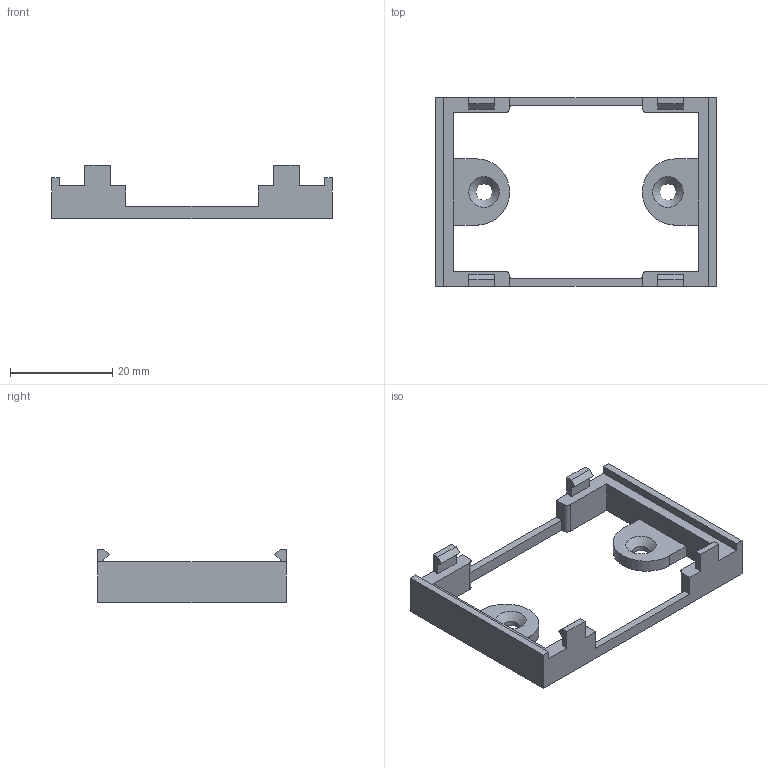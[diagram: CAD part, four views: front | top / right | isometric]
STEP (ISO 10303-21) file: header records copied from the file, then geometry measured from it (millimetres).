
FILE_DESCRIPTION(/* description */ (''),/* implementation_level */ '2;1');
FILE_NAME(/* name */ 'support carte reverser DCC v3.step',/* time_stamp */ '2024-03-13T22:12:15+01:00',/* author */ (''),/* organization */ (''),/* preprocessor_version */ 'ST-DEVELOPER v20',/* originating_system */ 'Autodesk Translation Framework v12.20.1.177',/* authorisation */ '');
FILE_SCHEMA (('AUTOMOTIVE_DESIGN { 1 0 10303 214 3 1 1 }'));
Length unit declared in the file: millimetre
Products named in the file (1): support carte reverser DCC
Bounding box: 55 x 37 x 10.4 mm (x, y, z)
Volume: 3517.4 mm3; surface area: 3813.2 mm2
Topology: 1 solids, 1 shells, 68 faces, 196 edges, 129 vertices
Faces by surface type: plane 55, cylinder 11, cone 2
Full cylindrical faces by diameter (mm): 3.2 x2
Entity records: 2249 total; most frequent: CARTESIAN_POINT 394, ORIENTED_EDGE 392, DIRECTION 358, EDGE_CURVE 196, LINE 172, VECTOR 172, VERTEX_POINT 129, AXIS2_PLACEMENT_3D 93
